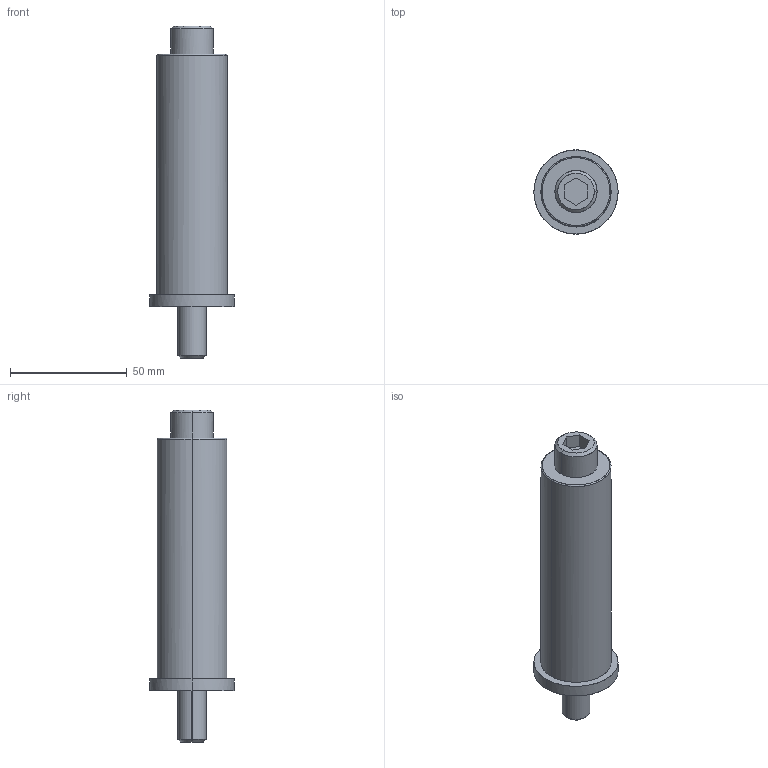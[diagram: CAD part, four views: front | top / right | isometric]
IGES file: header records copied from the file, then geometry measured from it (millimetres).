
Global section: file name: E:\UnigraphicsGraphicData\MISUMI_PRESS-PARTS\IGES\3d_sgc36-120_00802_r00.igs; native system: NX V5.0; preprocessor: UGS NX IGES V5.0; author: MISUMI; date: 20110105.162539; units: millimetre
Bounding box: 36 x 36 x 142 mm (x, y, z)
Surface area: 19930.4 mm2 (no closed solid volume)
Topology: 0 solids, 0 shells, 33 faces, 284 edges, 284 vertices
Faces by surface type: bspline 33
